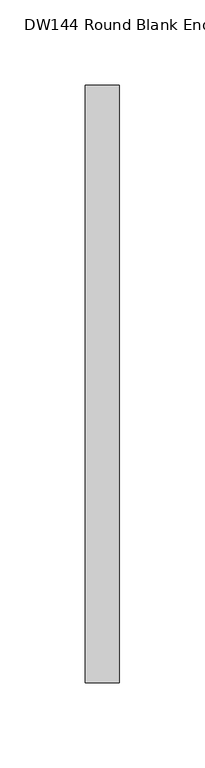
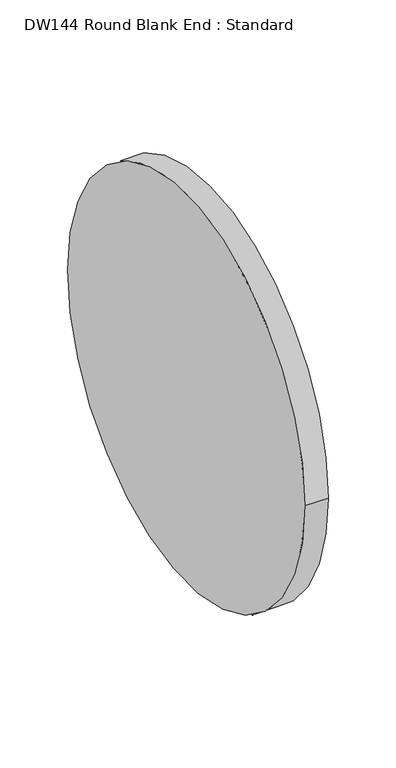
"""IFC4 building model written with IfcOpenShell, lengths in millimetres: duct fitting geometry, DW144 Round Blank End : Standard."""

from ifc_helpers import new_model, si_unit, point, frame, origin, origin_2d, place, context, project, spatial, circle_curve, trimmed, segment, composite_curve, outline, extrude, source, transform, mapped, element, save


def dw144_round_blank_end_standard_9aa061e7(model_context):
    return source(origin(), model_context, "Body", "SweptSolid", [
        extrude(outline(composite_curve([segment(trimmed(circle_curve(origin_2d(), 175.0), [point((175.0, 0.0))], [point((-175.0, 0.0))], False, "CARTESIAN"), True, "CONTINUOUS"), segment(trimmed(circle_curve(origin_2d(), 175.0), [point((-175.0, 0.0))], [point((175.0, 0.0))], False, "CARTESIAN"), True, "CONTINUOUS")], self_intersect=False)), frame((0.0, 0.0, 0.0), z_axis=(1.0, 0.0, 0.0), x_axis=(0.0, 1.0, 0.0)), (0.0, 0.0, 1.0), 20.0),
    ])


if __name__ == "__main__":
    model = new_model("IFC4")
    model_context = context("Model", 3, world=origin())
    ifc_project = project(units=[si_unit("LENGTHUNIT", "METRE", prefix="MILLI")], contexts=[model_context])
    site = spatial("IfcSite", under=ifc_project)
    building = spatial("IfcBuilding", under=site)
    placement = place(None, origin())
    dw144_round_blank_end_standard_shape = dw144_round_blank_end_standard_9aa061e7(model_context)
    element("IfcDuctFitting", 1, ObjectType="DW144 Round Blank End : Standard", at=placement, inside=building, context=model_context, shape_type="MappedRepresentation", body=[
        mapped(dw144_round_blank_end_standard_shape, transform((0.0, 0.0, 0.0), x_axis=(1.0, 0.0, 0.0), y_axis=(0.0, 1.0, 0.0), z_axis=(0.0, 0.0, 1.0))),
    ])
    save(model, "model.ifc")
